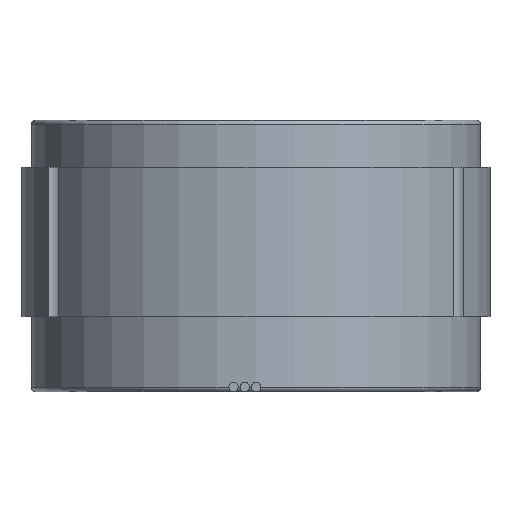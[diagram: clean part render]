
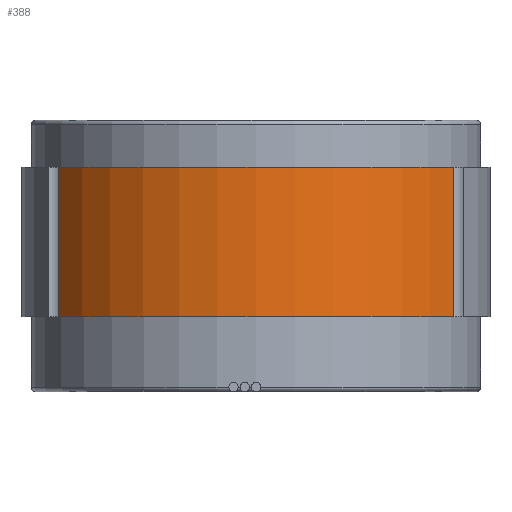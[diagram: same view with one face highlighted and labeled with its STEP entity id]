
A CAD part, front view. The second image highlights one B-rep face of the part: STEP entity #388.
In plain terms, the highlighted cylindrical face has radius 12.5 mm (diameter 25 mm), a partial arc.
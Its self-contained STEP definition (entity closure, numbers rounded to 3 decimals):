
#13 = CARTESIAN_POINT ( 'NONE',  ( 0., 0., 8. ) ) ;
#154 = CYLINDRICAL_SURFACE ( 'NONE', #1654, 12.5 ) ;
#155 = VERTEX_POINT ( 'NONE', #1500 ) ;
#332 = DIRECTION ( 'NONE',  ( 0., 0., 1. ) ) ;
#358 = EDGE_LOOP ( 'NONE', ( #1554, #369, #791, #1308 ) ) ;
#369 = ORIENTED_EDGE ( 'NONE', *, *, #1756, .F. ) ;
#384 = EDGE_CURVE ( 'NONE', #1015, #1586, #727, .T. ) ;
#388 = ADVANCED_FACE ( 'NONE', ( #843 ), #154, .T. ) ;
#441 = EDGE_CURVE ( 'NONE', #1586, #155, #1379, .T. ) ;
#577 = DIRECTION ( 'NONE',  ( 0., 0., -1. ) ) ;
#585 = CARTESIAN_POINT ( 'NONE',  ( 10.567, -6.678, 8. ) ) ;
#601 = AXIS2_PLACEMENT_3D ( 'NONE', #1580, #1728, #920 ) ;
#631 = VECTOR ( 'NONE', #1092, 1000. ) ;
#645 = CARTESIAN_POINT ( 'NONE',  ( -10.567, -6.678, 8. ) ) ;
#727 = LINE ( 'NONE', #1271, #861 ) ;
#791 = ORIENTED_EDGE ( 'NONE', *, *, #987, .F. ) ;
#843 = FACE_OUTER_BOUND ( 'NONE', #358, .T. ) ;
#861 = VECTOR ( 'NONE', #1656, 1000. ) ;
#881 = VERTEX_POINT ( 'NONE', #585 ) ;
#882 = CARTESIAN_POINT ( 'NONE',  ( 0., 0., 8. ) ) ;
#920 = DIRECTION ( 'NONE',  ( 1., 0., 0. ) ) ;
#987 = EDGE_CURVE ( 'NONE', #1015, #881, #1709, .T. ) ;
#1012 = DIRECTION ( 'NONE',  ( 1., 0., 0. ) ) ;
#1015 = VERTEX_POINT ( 'NONE', #645 ) ;
#1092 = DIRECTION ( 'NONE',  ( 0., 0., -1. ) ) ;
#1173 = AXIS2_PLACEMENT_3D ( 'NONE', #882, #332, #1012 ) ;
#1214 = LINE ( 'NONE', #1757, #631 ) ;
#1271 = CARTESIAN_POINT ( 'NONE',  ( -10.567, -6.678, 8. ) ) ;
#1308 = ORIENTED_EDGE ( 'NONE', *, *, #384, .T. ) ;
#1327 = CARTESIAN_POINT ( 'NONE',  ( -10.567, -6.678, 0. ) ) ;
#1379 = CIRCLE ( 'NONE', #601, 12.5 ) ;
#1500 = CARTESIAN_POINT ( 'NONE',  ( 10.567, -6.678, 0. ) ) ;
#1554 = ORIENTED_EDGE ( 'NONE', *, *, #441, .T. ) ;
#1580 = CARTESIAN_POINT ( 'NONE',  ( 0., 0., 0. ) ) ;
#1586 = VERTEX_POINT ( 'NONE', #1327 ) ;
#1654 = AXIS2_PLACEMENT_3D ( 'NONE', #13, #577, #1669 ) ;
#1656 = DIRECTION ( 'NONE',  ( 0., 0., -1. ) ) ;
#1669 = DIRECTION ( 'NONE',  ( -1., 0., 0. ) ) ;
#1709 = CIRCLE ( 'NONE', #1173, 12.5 ) ;
#1728 = DIRECTION ( 'NONE',  ( 0., 0., 1. ) ) ;
#1756 = EDGE_CURVE ( 'NONE', #881, #155, #1214, .T. ) ;
#1757 = CARTESIAN_POINT ( 'NONE',  ( 10.567, -6.678, 8. ) ) ;
